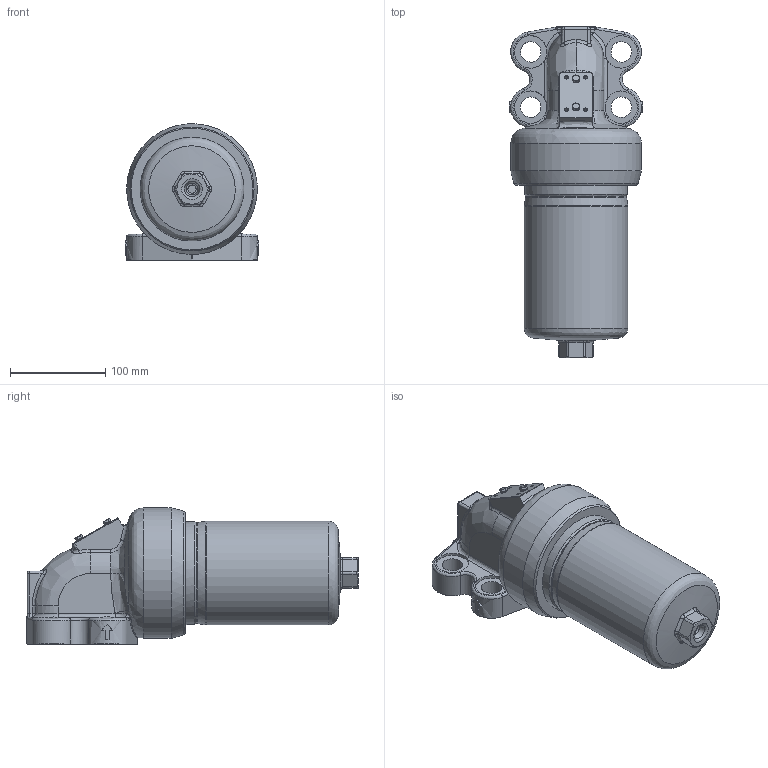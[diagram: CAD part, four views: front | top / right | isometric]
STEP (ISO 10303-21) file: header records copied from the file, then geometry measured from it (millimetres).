
FILE_DESCRIPTION((''),'2;1');
FILE_NAME('U:\Users\i.maeder\14985100-HD314.stp', '2013-08-06T14:26:29',('User'),('SDRC'),'I-DEAS Master Series 9','UNIX', 'Yes');
FILE_SCHEMA(('AUTOMOTIVE_DESIGN { 1 0 10303 214 1 1 1 1 }'));
Length unit declared in the file: millimetre
Products named in the file (1): 14985100(236856)
Bounding box: 140 x 348.1 x 142.87 mm (x, y, z)
Volume: 3081946.9 mm3; surface area: 163371.1 mm2
Topology: 1 solids, 5 shells, 318 faces, 720 edges, 428 vertices
Faces by surface type: bspline 318
Entity records: 12213 total; most frequent: CARTESIAN_POINT 8073, ORIENTED_EDGE 1406, EDGE_CURVE 703, VERTEX_POINT 427, EDGE_LOOP 362, FACE_OUTER_BOUND 318, ADVANCED_FACE 318, B_SPLINE_CURVE_WITH_KNOTS 297
